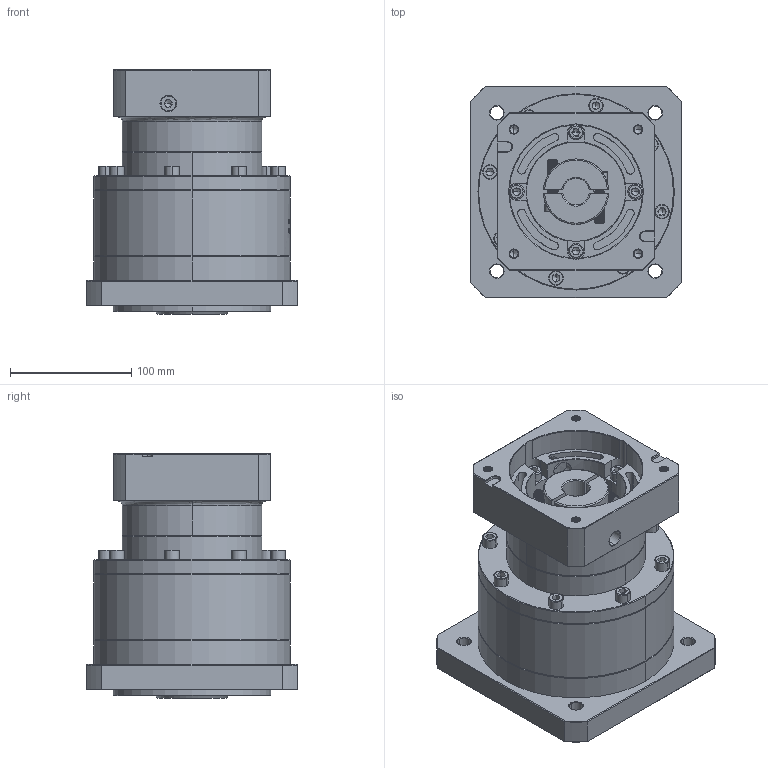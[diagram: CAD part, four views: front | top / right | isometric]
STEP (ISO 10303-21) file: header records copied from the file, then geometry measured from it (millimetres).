
FILE_DESCRIPTION (( 'STEP AP214' ), '1' );
FILE_NAME ('ZF160-K35-L2-22-110-145-M8.step', '2023-03-22T03:58:55', ( '' ), ( '' ), 'SwSTEP 2.0', 'SolidWorks 2016', '' );
FILE_SCHEMA (( 'AUTOMOTIVE_DESIGN' ));
Length unit declared in the file: millimetre
Products named in the file (1): ZF160-K35-L2-22-110-145-M8
Bounding box: 175 x 175 x 202.2 mm (x, y, z)
Volume: 3221096.4 mm3; surface area: 271273.9 mm2
Topology: 6 solids, 6 shells, 1855 faces, 4727 edges, 2991 vertices
Faces by surface type: plane 765, cylinder 474, cone 355, bspline 207, torus 54
Entity records: 96192 total; most frequent: CARTESIAN_POINT 33039, ORIENTED_EDGE 9350, DIRECTION 8260, EDGE_CURVE 4675, VERTEX_POINT 2991, AXIS2_PLACEMENT_3D 2871, VECTOR 2518, LINE 2518
